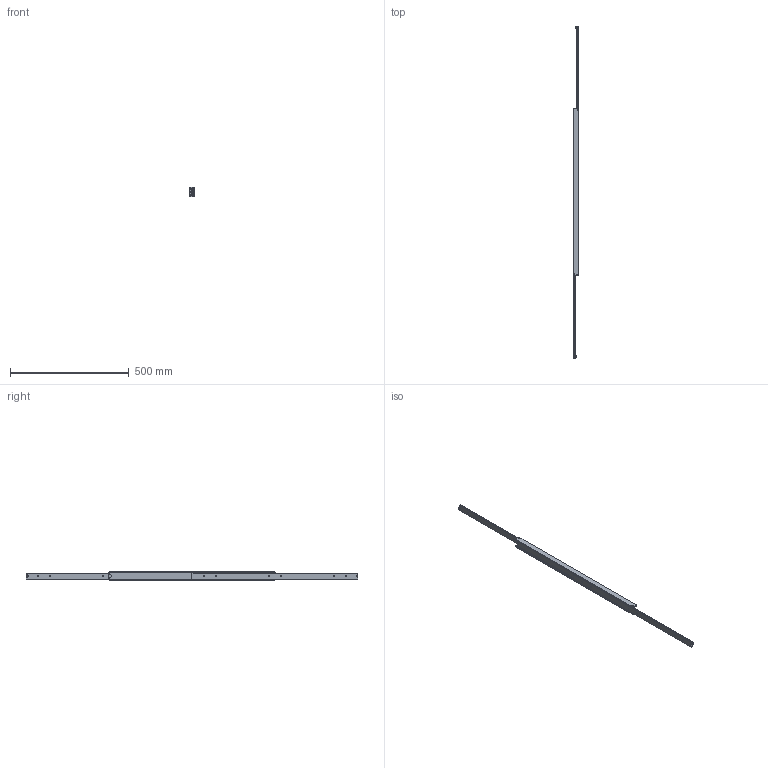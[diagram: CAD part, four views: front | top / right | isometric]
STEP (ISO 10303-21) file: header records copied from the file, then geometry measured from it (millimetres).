
FILE_DESCRIPTION(/* description */ (''),/* implementation_level */ '2;1');
FILE_NAME(/* name */ 'C:\Users\Miluxor\Desktop\Miluxor Schienen\Original Zeichnungen\Zeichnungen Schienen Komplett\MX-DTP40\MX-DTP40.070\MX-DTP40.070_offen.stp',/* time_stamp */ '2018-03-31T11:14:56+02:00',/* author */ ('Miluxor'),/* organization */ (''),/* preprocessor_version */ 'ST-DEVELOPER v16.13',/* originating_system */ 'AutoCAD Mechanical',/* authorisation */ '');
FILE_SCHEMA (('AUTOMOTIVE_DESIGN { 1 0 10303 214 3 1 1 }'));
Products named in the file (1): Product
Bounding box: 24 x 1400 x 40.5 mm (x, y, z)
Volume: 534274.8 mm3; surface area: 272759.8 mm2
Topology: 95 solids, 95 shells, 618 faces, 1583 edges, 1054 vertices
Faces by surface type: plane 392, cylinder 88, bspline 68, sphere 56, cone 8, torus 6
Full cylindrical faces by diameter (mm): 4 x2, 5 x12, 6 x56, 10 x2
Entity records: 55219 total; most frequent: CARTESIAN_POINT 41086, ORIENTED_EDGE 2744, DIRECTION 2556, EDGE_CURVE 1372, VERTEX_POINT 1038, LINE 930, VECTOR 930, EDGE_LOOP 848
